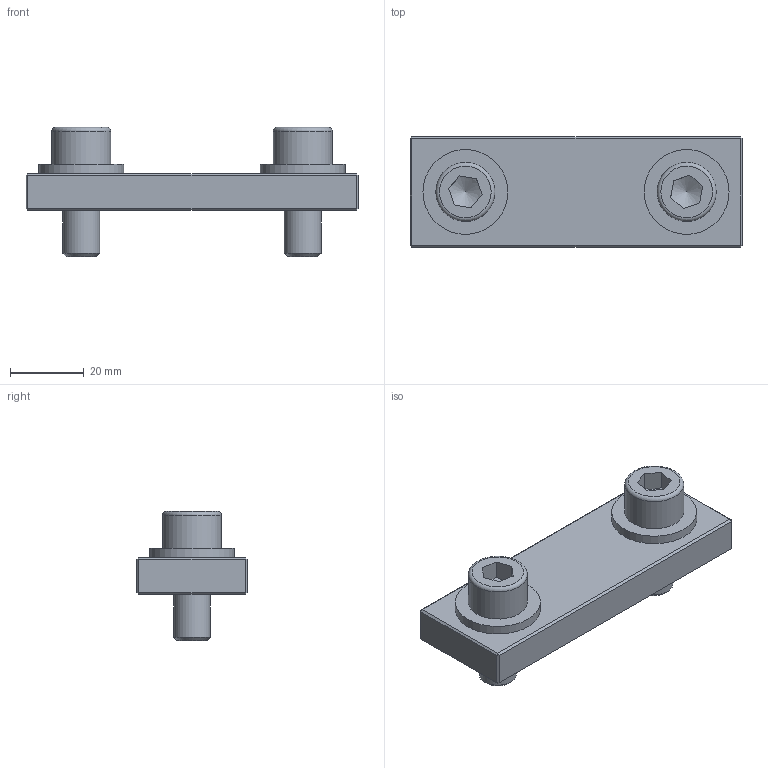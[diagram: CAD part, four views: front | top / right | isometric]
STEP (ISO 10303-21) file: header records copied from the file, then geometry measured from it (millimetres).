
FILE_DESCRIPTION((''),'2;1');
FILE_NAME('H:\3D-Entwürfe\Befestigungsteile\3D Modelle andere Formate\A\STEP\A70.stp','2010-03-08T11:21:53',('karin.hoppmann'),(''),'Autodesk Inventor 2009','Autodesk Inventor 2009','');
FILE_SCHEMA(('AUTOMOTIVE_DESIGN { 1 0 10303 214 1 1 1 1 }'));
Length unit declared in the file: millimetre
Products named in the file (4): A70; DIN EN ISO 4762 M10 x 25; DIN 6796 10
Assembly tree (5 placements, depth 2):
  A70
    A70
    DIN EN ISO 4762 M10 x 25  x2
    DIN 6796 10  x2
Bounding box: 90 x 30 x 35 mm (x, y, z)
Volume: 34063.8 mm3; surface area: 13369.4 mm2
Topology: 5 solids, 5 shells, 70 faces, 140 edges, 82 vertices
Faces by surface type: plane 48, cone 8, cylinder 8, bspline 4, torus 2
Full cylindrical faces by diameter (mm): 10 x2, 10.5 x2, 16 x2, 23 x2
Entity records: 1378 total; most frequent: CARTESIAN_POINT 290, DIRECTION 212, ORIENTED_EDGE 170, EDGE_CURVE 85, AXIS2_PLACEMENT_3D 76, EDGE_LOOP 72, VECTOR 60, LINE 60
